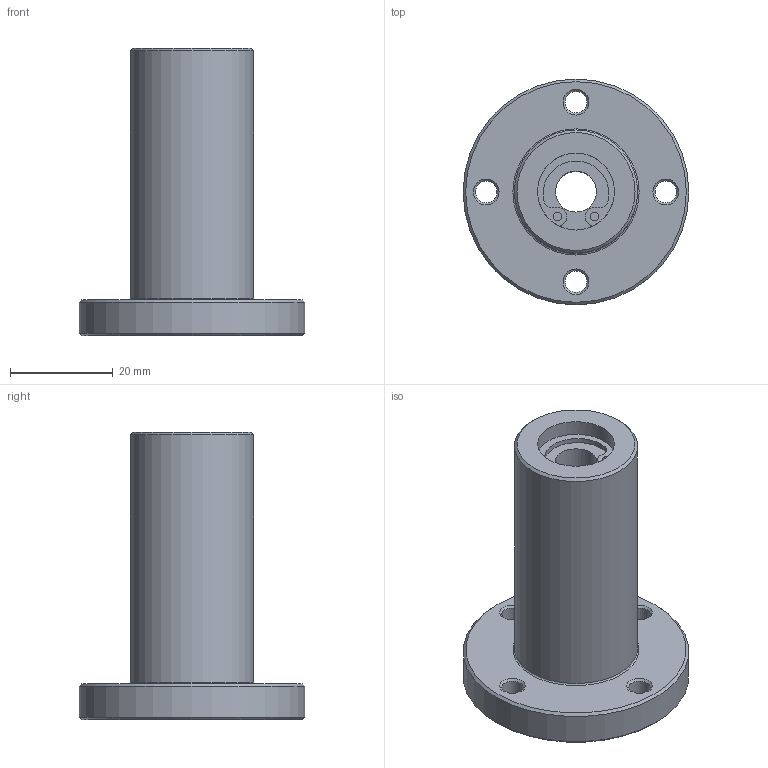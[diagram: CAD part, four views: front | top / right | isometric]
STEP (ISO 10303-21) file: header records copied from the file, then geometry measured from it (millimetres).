
FILE_DESCRIPTION(('STEP AP203'),'1');
FILE_NAME('//192.168.1.1/share/s-4 技術開発/s-4-4_CAD/s-4-4-3_見直し済み/009 修正済み/LCFD-A/LCFD-A_TOP/LCFD-8AVUU.step','2022-02-04T05:53:35',(' '),(' '),'Spatial InterOp 3D',' ',' ');
FILE_SCHEMA(('CONFIG_CONTROL_DESIGN'));
Length unit declared in the file: millimetre
Products named in the file (1): 1
Bounding box: 44 x 44 x 56 mm (x, y, z)
Volume: 28473.7 mm3; surface area: 9347.6 mm2
Topology: 1 solids, 1 shells, 56 faces, 132 edges, 86 vertices
Faces by surface type: cylinder 28, plane 16, cone 11, torus 1
Full cylindrical faces by diameter (mm): 1.7 x4, 4.2 x4, 8 x1, 15 x2, 24 x1, 26.3 x1, 44 x1
Entity records: 1500 total; most frequent: DIRECTION 282, CARTESIAN_POINT 233, ORIENTED_EDGE 196, AXIS2_PLACEMENT_3D 127, EDGE_LOOP 100, EDGE_CURVE 98, VERTEX_POINT 78, FACE_OUTER_BOUND 71
